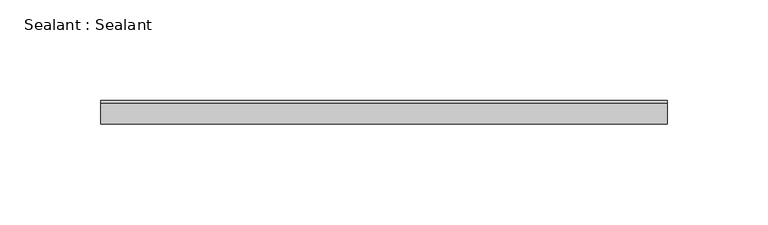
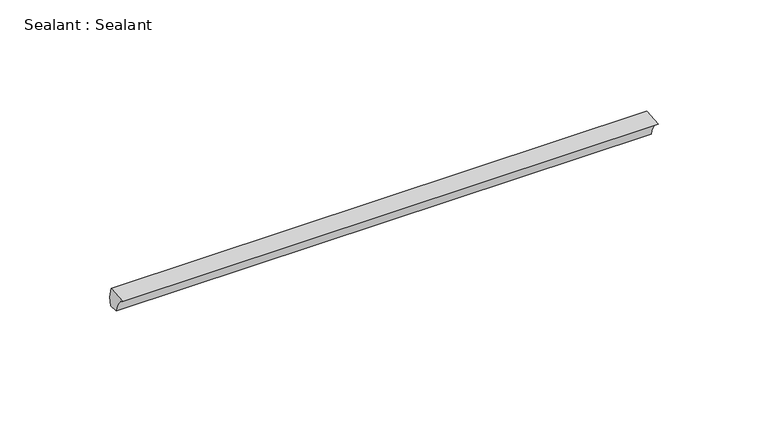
"""IFC4 building model written with IfcOpenShell, lengths in millimetres: proxy geometry, Sealant : Sealant."""

from ifc_helpers import new_model, si_unit, point, frame, frame_2d, origin, place, context, project, spatial, polyline, circle_curve, trimmed, segment, composite_curve, outline, extrude, source, transform, mapped, element, save


def sealant_sealant_3a8dd322(model_context):
    return source(origin(), model_context, "Body", "SweptSolid", [
        extrude(outline(composite_curve([segment(polyline([(596.556611, 290.5125), (591.7144422, 290.5125)]), True, "CONTINUOUS"), segment(trimmed(circle_curve(frame_2d((579.403191, 288.9140378)), 12.4145876), [point((591.7144422, 290.5125))], [point((585.685847, 299.621522))], True, "CARTESIAN"), True, "CONTINUOUS"), segment(polyline([(585.685847, 299.621522), (596.0487752, 300.5281608)]), True, "CONTINUOUS"), segment(trimmed(circle_curve(frame_2d((585.2972209, 294.9623071)), 12.1068017), [point((596.0487752, 300.5281608))], [point((596.556611, 290.5125))], False, "CARTESIAN"), True, "CONTINUOUS")], self_intersect=False)), frame((26573.3101773, 0.0, 0.0), z_axis=(1.0, 0.0, 0.0), x_axis=(0.0, 1.0, 0.0)), (0.0, 0.0, 1.0), 280.9875),
    ])


if __name__ == "__main__":
    model = new_model("IFC4")
    model_context = context("Model", 3, world=origin())
    ifc_project = project(units=[si_unit("LENGTHUNIT", "METRE", prefix="MILLI")], contexts=[model_context])
    site = spatial("IfcSite", under=ifc_project)
    building = spatial("IfcBuilding", under=site)
    placement = place(None, origin())
    sealant_sealant_shape = sealant_sealant_3a8dd322(model_context)
    element("IfcBuildingElementProxy", 1, Name="Sealant : Sealant", ObjectType="Sealant : Sealant", at=placement, inside=building, context=model_context, shape_type="MappedRepresentation", body=[
        mapped(sealant_sealant_shape, transform((0.0, 0.0, 0.0), x_axis=(1.0, 0.0, 0.0), y_axis=(0.0, 1.0, 0.0), z_axis=(0.0, 0.0, 1.0))),
    ])
    save(model, "model.ifc")
